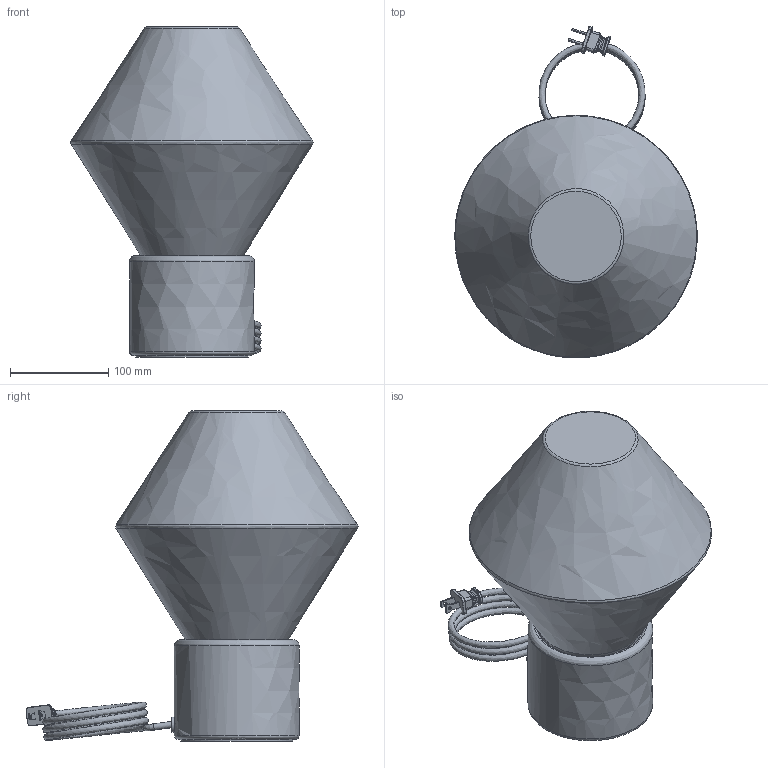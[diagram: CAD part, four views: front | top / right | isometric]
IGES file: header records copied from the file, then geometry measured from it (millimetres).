
Global section: file name: Trove - Ionic Table Lamp - Opalia Collection; native system: unknown; preprocessor: unknown; author: unknown; organization: unknown; date: 20240726.154527; units: inch
Bounding box: 246.6 x 337.61 x 335.77 mm (x, y, z)
Volume: 1640909.6 mm3; surface area: 604617.9 mm2
Topology: 14 solids, 14 shells, 1978 faces, 5285 edges, 3484 vertices
Faces by surface type: bspline 1977, revolution 1
